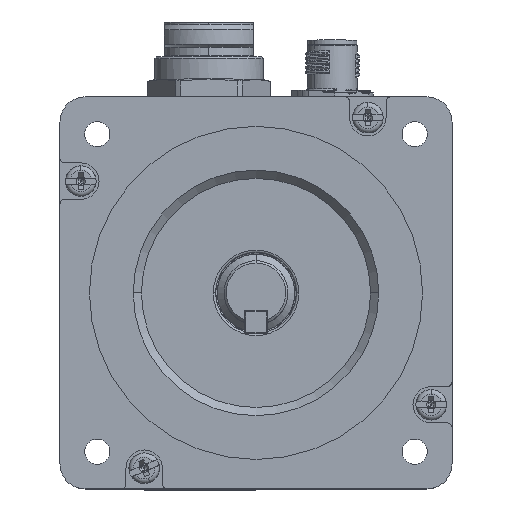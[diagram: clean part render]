
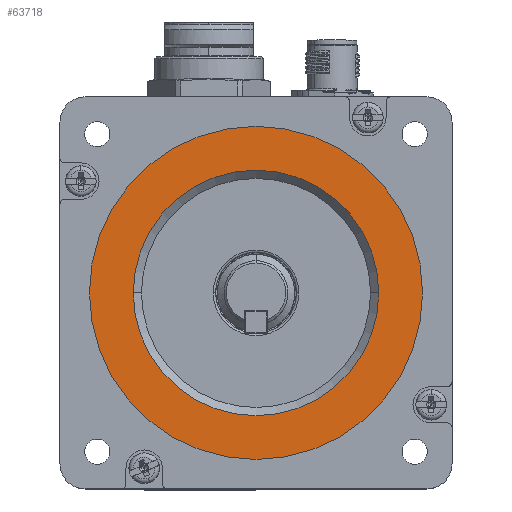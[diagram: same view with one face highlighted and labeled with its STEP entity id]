
A CAD part, top view. The second image highlights one B-rep face of the part: STEP entity #63718.
In plain terms, the highlighted planar face has unit normal (0, 0, 1).
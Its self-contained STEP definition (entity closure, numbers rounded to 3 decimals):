
#781 = CIRCLE ( 'NONE', #23705, 26.9 ) ;
#1080 = VERTEX_POINT ( 'NONE', #97715 ) ;
#2442 = CARTESIAN_POINT ( 'NONE',  ( 43.3, 43.354, 219.616 ) ) ;
#2963 = EDGE_CURVE ( 'NONE', #94135, #55107, #29205, .T. ) ;
#12532 = DIRECTION ( 'NONE',  ( 0., 0., 1. ) ) ;
#14797 = PLANE ( 'NONE',  #55849 ) ;
#18008 = CIRCLE ( 'NONE', #58980, 36.5 ) ;
#23705 = AXIS2_PLACEMENT_3D ( 'NONE', #2442, #81791, #27496 ) ;
#27496 = DIRECTION ( 'NONE',  ( 1., 0., 0. ) ) ;
#29205 = CIRCLE ( 'NONE', #32416, 26.9 ) ;
#30417 = EDGE_CURVE ( 'NONE', #1080, #69602, #50056, .T. ) ;
#32416 = AXIS2_PLACEMENT_3D ( 'NONE', #51126, #91085, #83849 ) ;
#38301 = FACE_BOUND ( 'NONE', #39782, .T. ) ;
#39782 = EDGE_LOOP ( 'NONE', ( #46236, #74447 ) ) ;
#44703 = ORIENTED_EDGE ( 'NONE', *, *, #60060, .T. ) ;
#45952 = CARTESIAN_POINT ( 'NONE',  ( 43.3, 43.354, 219.616 ) ) ;
#46236 = ORIENTED_EDGE ( 'NONE', *, *, #2963, .T. ) ;
#47723 = CARTESIAN_POINT ( 'NONE',  ( 79.8, 43.354, 219.616 ) ) ;
#50056 = CIRCLE ( 'NONE', #95873, 36.5 ) ;
#51126 = CARTESIAN_POINT ( 'NONE',  ( 43.3, 43.354, 219.616 ) ) ;
#52619 = DIRECTION ( 'NONE',  ( 1., 0., 0. ) ) ;
#53710 = FACE_OUTER_BOUND ( 'NONE', #81230, .T. ) ;
#54211 = CARTESIAN_POINT ( 'NONE',  ( 16.4, 43.354, 219.616 ) ) ;
#55107 = VERTEX_POINT ( 'NONE', #54211 ) ;
#55849 = AXIS2_PLACEMENT_3D ( 'NONE', #87939, #12532, #98716 ) ;
#58980 = AXIS2_PLACEMENT_3D ( 'NONE', #45952, #76605, #52619 ) ;
#60060 = EDGE_CURVE ( 'NONE', #69602, #1080, #18008, .T. ) ;
#63354 = CARTESIAN_POINT ( 'NONE',  ( 70.2, 43.354, 219.616 ) ) ;
#63718 = ADVANCED_FACE ( 'NONE', ( #38301, #53710 ), #14797, .T. ) ;
#65796 = DIRECTION ( 'NONE',  ( 1., 0., 0. ) ) ;
#69602 = VERTEX_POINT ( 'NONE', #47723 ) ;
#71400 = DIRECTION ( 'NONE',  ( 0., 0., 1. ) ) ;
#74447 = ORIENTED_EDGE ( 'NONE', *, *, #98607, .T. ) ;
#76605 = DIRECTION ( 'NONE',  ( 0., 0., 1. ) ) ;
#80626 = CARTESIAN_POINT ( 'NONE',  ( 43.3, 43.354, 219.616 ) ) ;
#81230 = EDGE_LOOP ( 'NONE', ( #44703, #91345 ) ) ;
#81791 = DIRECTION ( 'NONE',  ( 0., 0., -1. ) ) ;
#83849 = DIRECTION ( 'NONE',  ( 1., 0., 0. ) ) ;
#87939 = CARTESIAN_POINT ( 'NONE',  ( 5.85, 5.904, 219.616 ) ) ;
#91085 = DIRECTION ( 'NONE',  ( 0., 0., -1. ) ) ;
#91345 = ORIENTED_EDGE ( 'NONE', *, *, #30417, .T. ) ;
#94135 = VERTEX_POINT ( 'NONE', #63354 ) ;
#95873 = AXIS2_PLACEMENT_3D ( 'NONE', #80626, #71400, #65796 ) ;
#97715 = CARTESIAN_POINT ( 'NONE',  ( 6.8, 43.354, 219.616 ) ) ;
#98607 = EDGE_CURVE ( 'NONE', #55107, #94135, #781, .T. ) ;
#98716 = DIRECTION ( 'NONE',  ( 1., 0., 0. ) ) ;
